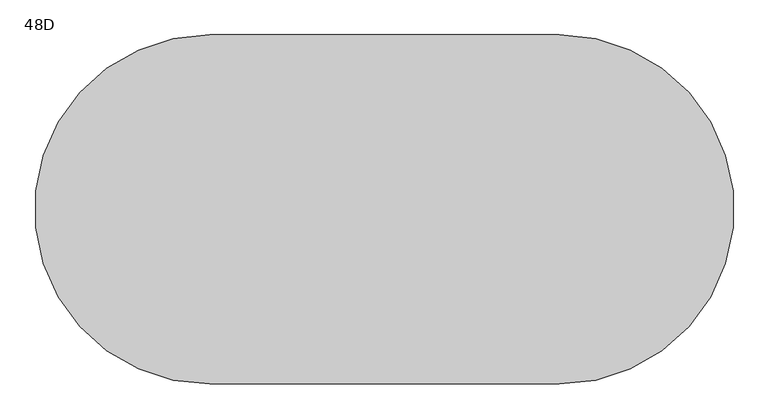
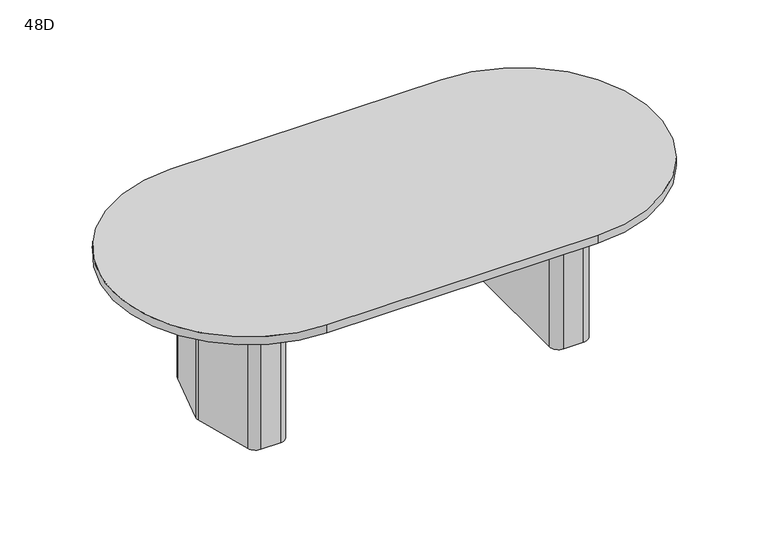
"""IFC4 building model written with IfcOpenShell, lengths in millimetres: furniture geometry, Coalesse_AM_Table_Conference_ETable2_Racetrack_96in_TwoBase : 48D."""

from ifc_helpers import new_model, si_unit, point, frame, frame_2d, origin, place, context, project, spatial, polyline, circle_curve, trimmed, segment, composite_curve, outline, extrude, source, transform, mapped, element, save
from ifc_brep_helpers import plane_surface, cylinder_surface, revolved_surface, advanced_brep


def furniture_48d_a0592bcc(model_context):
    return source(origin(), model_context, "Body", "SolidModel", [
        advanced_brep(
        [(760.624548, 274.2093613, 698.5), (720.7579246, 304.8, 698.5), (631.825, 304.8, 698.5), (590.55, 263.525, 698.5), (590.55, -263.525, 698.5), (631.825, -304.8, 698.5), (720.7579246, -304.8, 698.5), (760.624548, -274.2093613, 698.5), (831.2503901, -10.6333708, 698.5), (831.2503901, 10.6333708, 698.5), (628.65, -206.375, 698.5), (628.65, 206.375, 698.5), (654.05, 231.775, 698.5), (713.0608422, 231.775, 698.5), (737.595338, 212.9490792, 698.5), (776.2875, 68.54974, 698.5), (776.2875, -68.54974, 698.5), (737.595338, -212.9490792, 698.5), (713.0608422, -231.775, 698.5), (654.05, -231.775, 698.5), (760.624548, 274.2093613, 3.175), (831.2503901, 10.6333708, 3.175), (831.2503901, -10.6333708, 3.175), (760.624548, -274.2093613, 3.175), (720.7579246, -304.8, 3.175), (631.825, -304.8, 3.175), (590.55, -263.525, 3.175), (590.55, 263.525, 3.175), (631.825, 304.8, 3.175), (720.7579246, 304.8, 3.175), (749.8625859, 216.2361187, 3.175), (713.0608422, 244.475, 3.175), (654.05, 244.475, 3.175), (615.95, 206.375, 3.175), (615.95, -206.375, 3.175), (654.05, -244.475, 3.175), (713.0608422, -244.475, 3.175), (749.8625859, -216.2361187, 3.175), (788.9875, -70.2217466, 3.175), (788.9875, 70.2217466, 3.175), (654.05, -231.775, 3.175), (628.65, -206.375, 3.175), (713.0608422, -231.775, 3.175), (737.595338, -212.9490792, 3.175), (776.2875, -68.54974, 3.175), (776.2875, 68.54974, 3.175), (737.595338, 212.9490792, 3.175), (713.0608422, 231.775, 3.175), (654.05, 231.775, 3.175), (628.65, 206.375, 3.175), (749.8625859, 216.2361187, 0.0), (788.9875, 70.2217466, 0.0), (788.9875, -70.2217466, 0.0), (749.8625859, -216.2361187, 0.0), (713.0608422, -244.475, 0.0), (654.05, -244.475, 0.0), (615.95, -206.375, 0.0), (615.95, 206.375, 0.0), (654.05, 244.475, 0.0), (713.0608422, 244.475, 0.0)],
        [
            (0, 1, circle_curve(frame((720.7579246, 263.5270004, 698.5), z_axis=(0.0, 0.0, 1.0), x_axis=(-1.0, 0.0, 0.0)), 41.2729996)),
            (1, 2),
            (2, 3, circle_curve(frame((631.825, 263.525, 698.5), z_axis=(0.0, 0.0, 1.0), x_axis=(-1.0, 0.0, 0.0)), 41.275)),
            (3, 4),
            (4, 5, circle_curve(frame((631.825, -263.525, 698.5), z_axis=(0.0, 0.0, 1.0), x_axis=(-1.0, 0.0, 0.0)), 41.275)),
            (5, 6),
            (6, 7, circle_curve(frame((720.7579246, -263.5270004, 698.5), z_axis=(0.0, 0.0, 1.0), x_axis=(-1.0, 0.0, 0.0)), 41.2729996)),
            (7, 8),
            (8, 9, circle_curve(frame((791.5665979, 0.0, 698.5), z_axis=(0.0, 0.0, 1.0), x_axis=(-1.0, 0.0, 0.0)), 41.0837187)),
            (9, 0),
            (10, 11),
            (11, 12, circle_curve(frame((654.05, 206.375, 698.5), z_axis=(0.0, 0.0, -1.0), x_axis=(-1.0, 0.0, 0.0)), 25.4)),
            (12, 13),
            (13, 14, circle_curve(frame((713.0608422, 206.375, 698.5), z_axis=(0.0, 0.0, -1.0), x_axis=(-1.0, 0.0, 0.0)), 25.4)),
            (14, 15),
            (15, 16),
            (16, 17),
            (17, 18, circle_curve(frame((713.0608422, -206.375, 698.5), z_axis=(0.0, 0.0, -1.0), x_axis=(-1.0, 0.0, 0.0)), 25.4)),
            (18, 19),
            (19, 10, circle_curve(frame((654.05, -206.375, 698.5), z_axis=(0.0, 0.0, -1.0), x_axis=(-1.0, 0.0, 0.0)), 25.4)),
            (20, 21),
            (21, 22, circle_curve(frame((791.5665979, 0.0, 3.175), z_axis=(0.0, 0.0, -1.0), x_axis=(-1.0, 0.0, 0.0)), 41.0837187)),
            (22, 23),
            (23, 24, circle_curve(frame((720.7579246, -263.5270004, 3.175), z_axis=(0.0, 0.0, -1.0), x_axis=(-1.0, 0.0, 0.0)), 41.2729996)),
            (24, 25),
            (25, 26, circle_curve(frame((631.825, -263.525, 3.175), z_axis=(0.0, 0.0, -1.0), x_axis=(-1.0, 0.0, 0.0)), 41.275)),
            (26, 27),
            (27, 28, circle_curve(frame((631.825, 263.525, 3.175), z_axis=(0.0, 0.0, -1.0), x_axis=(-1.0, 0.0, 0.0)), 41.275)),
            (28, 29),
            (29, 20, circle_curve(frame((720.7579246, 263.5270004, 3.175), z_axis=(0.0, 0.0, -1.0), x_axis=(-1.0, 0.0, 0.0)), 41.2729996)),
            (30, 31, circle_curve(frame((713.0608422, 206.375, 3.175), z_axis=(0.0, 0.0, 1.0), x_axis=(-1.0, 0.0, 0.0)), 38.1)),
            (31, 32),
            (32, 33, circle_curve(frame((654.05, 206.375, 3.175), z_axis=(0.0, 0.0, 1.0), x_axis=(-1.0, 0.0, 0.0)), 38.1)),
            (33, 34),
            (34, 35, circle_curve(frame((654.05, -206.375, 3.175), z_axis=(0.0, 0.0, 1.0), x_axis=(-1.0, 0.0, 0.0)), 38.1)),
            (35, 36),
            (36, 37, circle_curve(frame((713.0608422, -206.375, 3.175), z_axis=(0.0, 0.0, 1.0), x_axis=(-1.0, 0.0, 0.0)), 38.1)),
            (37, 38),
            (38, 39),
            (39, 30),
            (9, 21),
            (20, 0),
            (8, 22),
            (7, 23),
            (6, 24),
            (5, 25),
            (4, 26),
            (3, 27),
            (2, 28),
            (1, 29),
            (19, 40),
            (40, 41, circle_curve(frame((654.05, -206.375, 3.175), z_axis=(0.0, 0.0, -1.0), x_axis=(-1.0, 0.0, 0.0)), 25.4)),
            (41, 10),
            (18, 42),
            (42, 40),
            (17, 43),
            (43, 42, circle_curve(frame((713.0608422, -206.375, 3.175), z_axis=(0.0, 0.0, -1.0), x_axis=(-1.0, 0.0, 0.0)), 25.4)),
            (16, 44),
            (44, 43),
            (15, 45),
            (45, 44),
            (14, 46),
            (46, 45),
            (13, 47),
            (47, 46, circle_curve(frame((713.0608422, 206.375, 3.175), z_axis=(0.0, 0.0, -1.0), x_axis=(-1.0, 0.0, 0.0)), 25.4)),
            (12, 48),
            (48, 47),
            (11, 49),
            (49, 48, circle_curve(frame((654.05, 206.375, 3.175), z_axis=(0.0, 0.0, -1.0), x_axis=(-1.0, 0.0, 0.0)), 25.4)),
            (41, 49),
            (50, 51),
            (51, 52),
            (52, 53),
            (53, 54, circle_curve(frame((713.0608422, -206.375, 0.0), z_axis=(0.0, 0.0, -1.0), x_axis=(-1.0, 0.0, 0.0)), 38.1)),
            (54, 55),
            (55, 56, circle_curve(frame((654.05, -206.375, 0.0), z_axis=(0.0, 0.0, -1.0), x_axis=(-1.0, 0.0, 0.0)), 38.1)),
            (56, 57),
            (57, 58, circle_curve(frame((654.05, 206.375, 0.0), z_axis=(0.0, 0.0, -1.0), x_axis=(-1.0, 0.0, 0.0)), 38.1)),
            (58, 59),
            (59, 50, circle_curve(frame((713.0608422, 206.375, 0.0), z_axis=(0.0, 0.0, -1.0), x_axis=(-1.0, 0.0, 0.0)), 38.1)),
            (50, 30),
            (39, 51),
            (38, 52),
            (37, 53),
            (36, 54),
            (35, 55),
            (34, 56),
            (33, 57),
            (32, 58),
            (31, 59),
        ],
        [
            plane_surface(frame((831.2374275, 10.6817473, 698.5), z_axis=(0.0, 0.0, 1.0000000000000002), x_axis=(0.25882201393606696, -0.9659250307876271, 0.0))),
            plane_surface(frame((831.2374275, 10.6817473, 3.175), z_axis=(0.0, 0.0, -1.0000000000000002), x_axis=(-0.25882201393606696, 0.9659250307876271, 0.0))),
            plane_surface(frame((760.624548, 274.2093613, 698.5), z_axis=(0.9659250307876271, 0.25882201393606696, 0.0), x_axis=(0.0, 0.0, -1.0))),
            cylinder_surface(frame((791.5665979, 0.0, 3.175), z_axis=(0.0, 0.0, 1.0), x_axis=(-1.0, 0.0, 0.0)), 41.0837187),
            plane_surface(frame((831.2503901, -10.6333708, 698.5), z_axis=(0.9659250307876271, -0.2588220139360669, 0.0), x_axis=(0.0, 0.0, -1.0))),
            cylinder_surface(frame((720.7579246, -263.5270004, 3.175), z_axis=(0.0, 0.0, 1.0), x_axis=(-1.0, 0.0, 0.0)), 41.2729996),
            plane_surface(frame((720.7579246, -304.8, 698.5), z_axis=(0.0, -1.0, 0.0), x_axis=(0.0, 0.0, -1.0))),
            cylinder_surface(frame((631.825, -263.525, 3.175), z_axis=(0.0, 0.0, 1.0), x_axis=(-1.0, 0.0, 0.0)), 41.275),
            plane_surface(frame((590.55, -263.525, 698.5), z_axis=(-1.0, 0.0, 0.0), x_axis=(0.0, 0.0, -1.0))),
            cylinder_surface(frame((631.825, 263.525, 3.175), z_axis=(0.0, 0.0, 1.0), x_axis=(-1.0, 0.0, 0.0)), 41.275),
            plane_surface(frame((631.825, 304.8, 698.5), z_axis=(0.0, 1.0, 0.0), x_axis=(0.0, 0.0, -1.0))),
            cylinder_surface(frame((720.7579246, 263.5270004, 3.175), z_axis=(0.0, 0.0, 1.0), x_axis=(-1.0, 0.0, 0.0)), 41.2729996),
            revolved_surface(polyline([(628.65, -206.375, 3.175), (628.65, -206.375, 698.5)]), (654.05, -206.375, 0.0), (0.0, 0.0, -1.0)),
            plane_surface(frame((654.05, -231.775, 698.5), z_axis=(0.0, 1.0, 0.0), x_axis=(0.0, 0.0, -1.0))),
            revolved_surface(polyline([(687.6608422, -206.375, 3.175), (687.6608422, -206.375, 698.5)]), (713.0608422, -206.375, 0.0), (0.0, 0.0, -1.0)),
            plane_surface(frame((737.595338, -212.9490792, 698.5), z_axis=(-0.9659250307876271, 0.2588220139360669, 0.0), x_axis=(0.0, 0.0, -1.0))),
            plane_surface(frame((776.2875, -68.54974, 698.5), z_axis=(-1.0, 0.0, 0.0), x_axis=(0.0, 0.0, -1.0))),
            plane_surface(frame((776.2875, 68.54974, 698.5), z_axis=(-0.9659250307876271, -0.25882201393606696, 0.0), x_axis=(0.0, 0.0, -1.0))),
            revolved_surface(polyline([(687.6608422, 206.375, 3.175), (687.6608422, 206.375, 698.5)]), (713.0608422, 206.375, 0.0), (0.0, 0.0, -1.0)),
            plane_surface(frame((713.0608422, 231.775, 698.5), z_axis=(0.0, -1.0, 0.0), x_axis=(0.0, 0.0, -1.0))),
            revolved_surface(polyline([(628.65, 206.375, 3.175), (628.65, 206.375, 698.5)]), (654.05, 206.375, 0.0), (0.0, 0.0, -1.0)),
            plane_surface(frame((628.65, 206.375, 698.5), z_axis=(1.0, 0.0, 0.0), x_axis=(0.0, 0.0, -1.0))),
            plane_surface(frame((788.5547479, 71.8367796, 3.175), z_axis=(0.0, 0.0, 1.0), x_axis=(0.25882201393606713, -0.965925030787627, 0.0))),
            plane_surface(frame((788.5547479, 71.8367796, 0.0), z_axis=(0.0, 0.0, -1.0), x_axis=(-0.25882201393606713, 0.965925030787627, 0.0))),
            plane_surface(frame((749.8625859, 216.2361187, 3.175), z_axis=(0.965925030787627, 0.25882201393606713, 0.0), x_axis=(0.0, 0.0, -1.0))),
            plane_surface(frame((788.9875, 70.2217466, 3.175), z_axis=(1.0, 0.0, 0.0), x_axis=(0.0, 0.0, -1.0))),
            plane_surface(frame((788.9875, -70.2217466, 3.175), z_axis=(0.9659250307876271, -0.2588220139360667, 0.0), x_axis=(0.0, 0.0, -1.0))),
            cylinder_surface(frame((713.0608422, -206.375, 0.0), z_axis=(0.0, 0.0, 1.0), x_axis=(-1.0, 0.0, 0.0)), 38.1),
            plane_surface(frame((713.0608422, -244.475, 3.175), z_axis=(0.0, -1.0, 0.0), x_axis=(0.0, 0.0, -1.0))),
            cylinder_surface(frame((654.05, -206.375, 0.0), z_axis=(0.0, 0.0, 1.0), x_axis=(-1.0, 0.0, 0.0)), 38.1),
            plane_surface(frame((615.95, -206.375, 3.175), z_axis=(-1.0, 0.0, 0.0), x_axis=(0.0, 0.0, -1.0))),
            cylinder_surface(frame((654.05, 206.375, 0.0), z_axis=(0.0, 0.0, 1.0), x_axis=(-1.0, 0.0, 0.0)), 38.1),
            plane_surface(frame((654.05, 244.475, 3.175), z_axis=(0.0, 1.0, 0.0), x_axis=(0.0, 0.0, -1.0))),
            cylinder_surface(frame((713.0608422, 206.375, 0.0), z_axis=(0.0, 0.0, 1.0), x_axis=(-1.0, 0.0, 0.0)), 38.1),
        ],
        [
            (0, [[1, 2, 3, 4, 5, 6, 7, 8, 9, 10], [11, 12, 13, 14, 15, 16, 17, 18, 19, 20]]),
            (1, [[21, 22, 23, 24, 25, 26, 27, 28, 29, 30], [31, 32, 33, 34, 35, 36, 37, 38, 39, 40]]),
            (2, [[41, -21, 42, -10]]),
            (3, [[43, -22, -41, -9]]),
            (4, [[44, -23, -43, -8]]),
            (5, [[45, -24, -44, -7]]),
            (6, [[46, -25, -45, -6]]),
            (7, [[47, -26, -46, -5]]),
            (8, [[48, -27, -47, -4]]),
            (9, [[49, -28, -48, -3]]),
            (10, [[50, -29, -49, -2]]),
            (11, [[-42, -30, -50, -1]]),
            (12, [[51, 52, 53, -20]]),
            (13, [[54, 55, -51, -19]]),
            (14, [[56, 57, -54, -18]]),
            (15, [[58, 59, -56, -17]]),
            (16, [[60, 61, -58, -16]]),
            (17, [[62, 63, -60, -15]]),
            (18, [[64, 65, -62, -14]]),
            (19, [[66, 67, -64, -13]]),
            (20, [[68, 69, -66, -12]]),
            (21, [[-53, 70, -68, -11]]),
            (22, [[-55, -57, -59, -61, -63, -65, -67, -69, -70, -52]]),
            (23, [[71, 72, 73, 74, 75, 76, 77, 78, 79, 80]]),
            (24, [[81, -40, 82, -71]]),
            (25, [[-82, -39, 83, -72]]),
            (26, [[-83, -38, 84, -73]]),
            (27, [[-84, -37, 85, -74]]),
            (28, [[-85, -36, 86, -75]]),
            (29, [[-86, -35, 87, -76]]),
            (30, [[-87, -34, 88, -77]]),
            (31, [[-88, -33, 89, -78]]),
            (32, [[-89, -32, 90, -79]]),
            (33, [[-90, -31, -81, -80]]),
        ],
    ),
        advanced_brep(
        [(-771.737048, 274.2093613, 698.5), (-842.3628901, 10.6333708, 698.5), (-842.3628901, -10.6333708, 698.5), (-771.737048, -274.2093613, 698.5), (-731.8704246, -304.8, 698.5), (-642.9375, -304.8, 698.5), (-601.6625, -263.525, 698.5), (-601.6625, 263.525, 698.5), (-642.9375, 304.8, 698.5), (-731.8704246, 304.8, 698.5), (-639.7625, -206.375, 698.5), (-665.1625, -231.775, 698.5), (-724.1733422, -231.775, 698.5), (-748.707838, -212.9490792, 698.5), (-787.4, -68.54974, 698.5), (-787.4, 68.54974, 698.5), (-748.707838, 212.9490792, 698.5), (-724.1733422, 231.775, 698.5), (-665.1625, 231.775, 698.5), (-639.7625, 206.375, 698.5), (-771.737048, 274.2093613, 3.175), (-731.8704246, 304.8, 3.175), (-642.9375, 304.8, 3.175), (-601.6625, 263.525, 3.175), (-601.6625, -263.525, 3.175), (-642.9375, -304.8, 3.175), (-731.8704246, -304.8, 3.175), (-771.737048, -274.2093613, 3.175), (-842.3628901, -10.6333708, 3.175), (-842.3628901, 10.6333708, 3.175), (-760.9750859, 216.2361187, 3.175), (-800.1, 70.2217466, 3.175), (-800.1, -70.2217466, 3.175), (-760.9750859, -216.2361187, 3.175), (-724.1733422, -244.475, 3.175), (-665.1625, -244.475, 3.175), (-627.0625, -206.375, 3.175), (-627.0625, 206.375, 3.175), (-665.1625, 244.475, 3.175), (-724.1733422, 244.475, 3.175), (-639.7625, -206.375, 3.175), (-665.1625, -231.775, 3.175), (-724.1733422, -231.775, 3.175), (-748.707838, -212.9490792, 3.175), (-787.4, -68.54974, 3.175), (-787.4, 68.54974, 3.175), (-748.707838, 212.9490792, 3.175), (-724.1733422, 231.775, 3.175), (-665.1625, 231.775, 3.175), (-639.7625, 206.375, 3.175), (-760.9750859, 216.2361187, 0.0), (-724.1733422, 244.475, 0.0), (-665.1625, 244.475, 0.0), (-627.0625, 206.375, 0.0), (-627.0625, -206.375, 0.0), (-665.1625, -244.475, 0.0), (-724.1733422, -244.475, 0.0), (-760.9750859, -216.2361187, 0.0), (-800.1, -70.2217466, 0.0), (-800.1, 70.2217466, 0.0)],
        [
            (0, 1),
            (1, 2, circle_curve(frame((-802.6790979, 0.0, 698.5), z_axis=(0.0, 0.0, 1.0), x_axis=(1.0, 0.0, 0.0)), 41.0837187)),
            (2, 3),
            (3, 4, circle_curve(frame((-731.8704246, -263.5270004, 698.5), z_axis=(0.0, 0.0, 1.0), x_axis=(1.0, 0.0, 0.0)), 41.2729996)),
            (4, 5),
            (5, 6, circle_curve(frame((-642.9375, -263.525, 698.5), z_axis=(0.0, 0.0, 1.0), x_axis=(1.0, 0.0, 0.0)), 41.275)),
            (6, 7),
            (7, 8, circle_curve(frame((-642.9375, 263.525, 698.5), z_axis=(0.0, 0.0, 1.0), x_axis=(1.0, 0.0, 0.0)), 41.275)),
            (8, 9),
            (9, 0, circle_curve(frame((-731.8704246, 263.5270004, 698.5), z_axis=(0.0, 0.0, 1.0), x_axis=(1.0, 0.0, 0.0)), 41.2729996)),
            (10, 11, circle_curve(frame((-665.1625, -206.375, 698.5), z_axis=(0.0, 0.0, -1.0), x_axis=(1.0, 0.0, 0.0)), 25.4)),
            (11, 12),
            (12, 13, circle_curve(frame((-724.1733422, -206.375, 698.5), z_axis=(0.0, 0.0, -1.0), x_axis=(1.0, 0.0, 0.0)), 25.4)),
            (13, 14),
            (14, 15),
            (15, 16),
            (16, 17, circle_curve(frame((-724.1733422, 206.375, 698.5), z_axis=(0.0, 0.0, -1.0), x_axis=(1.0, 0.0, 0.0)), 25.4)),
            (17, 18),
            (18, 19, circle_curve(frame((-665.1625, 206.375, 698.5), z_axis=(0.0, 0.0, -1.0), x_axis=(1.0, 0.0, 0.0)), 25.4)),
            (19, 10),
            (20, 21, circle_curve(frame((-731.8704246, 263.5270004, 3.175), z_axis=(0.0, 0.0, -1.0), x_axis=(1.0, 0.0, 0.0)), 41.2729996)),
            (21, 22),
            (22, 23, circle_curve(frame((-642.9375, 263.525, 3.175), z_axis=(0.0, 0.0, -1.0), x_axis=(1.0, 0.0, 0.0)), 41.275)),
            (23, 24),
            (24, 25, circle_curve(frame((-642.9375, -263.525, 3.175), z_axis=(0.0, 0.0, -1.0), x_axis=(1.0, 0.0, 0.0)), 41.275)),
            (25, 26),
            (26, 27, circle_curve(frame((-731.8704246, -263.5270004, 3.175), z_axis=(0.0, 0.0, -1.0), x_axis=(1.0, 0.0, 0.0)), 41.2729996)),
            (27, 28),
            (28, 29, circle_curve(frame((-802.6790979, 0.0, 3.175), z_axis=(0.0, 0.0, -1.0), x_axis=(1.0, 0.0, 0.0)), 41.0837187)),
            (29, 20),
            (30, 31),
            (31, 32),
            (32, 33),
            (33, 34, circle_curve(frame((-724.1733422, -206.375, 3.175), z_axis=(0.0, 0.0, 1.0), x_axis=(1.0, 0.0, 0.0)), 38.1)),
            (34, 35),
            (35, 36, circle_curve(frame((-665.1625, -206.375, 3.175), z_axis=(0.0, 0.0, 1.0), x_axis=(1.0, 0.0, 0.0)), 38.1)),
            (36, 37),
            (37, 38, circle_curve(frame((-665.1625, 206.375, 3.175), z_axis=(0.0, 0.0, 1.0), x_axis=(1.0, 0.0, 0.0)), 38.1)),
            (38, 39),
            (39, 30, circle_curve(frame((-724.1733422, 206.375, 3.175), z_axis=(0.0, 0.0, 1.0), x_axis=(1.0, 0.0, 0.0)), 38.1)),
            (0, 20),
            (29, 1),
            (28, 2),
            (27, 3),
            (26, 4),
            (25, 5),
            (24, 6),
            (23, 7),
            (22, 8),
            (21, 9),
            (10, 40),
            (40, 41, circle_curve(frame((-665.1625, -206.375, 3.175), z_axis=(0.0, 0.0, -1.0), x_axis=(1.0, 0.0, 0.0)), 25.4)),
            (41, 11),
            (41, 42),
            (42, 12),
            (42, 43, circle_curve(frame((-724.1733422, -206.375, 3.175), z_axis=(0.0, 0.0, -1.0), x_axis=(1.0, 0.0, 0.0)), 25.4)),
            (43, 13),
            (43, 44),
            (44, 14),
            (44, 45),
            (45, 15),
            (45, 46),
            (46, 16),
            (46, 47, circle_curve(frame((-724.1733422, 206.375, 3.175), z_axis=(0.0, 0.0, -1.0), x_axis=(1.0, 0.0, 0.0)), 25.4)),
            (47, 17),
            (47, 48),
            (48, 18),
            (48, 49, circle_curve(frame((-665.1625, 206.375, 3.175), z_axis=(0.0, 0.0, -1.0), x_axis=(1.0, 0.0, 0.0)), 25.4)),
            (49, 19),
            (49, 40),
            (50, 51, circle_curve(frame((-724.1733422, 206.375, 0.0), z_axis=(0.0, 0.0, -1.0), x_axis=(1.0, 0.0, 0.0)), 38.1)),
            (51, 52),
            (52, 53, circle_curve(frame((-665.1625, 206.375, 0.0), z_axis=(0.0, 0.0, -1.0), x_axis=(1.0, 0.0, 0.0)), 38.1)),
            (53, 54),
            (54, 55, circle_curve(frame((-665.1625, -206.375, 0.0), z_axis=(0.0, 0.0, -1.0), x_axis=(1.0, 0.0, 0.0)), 38.1)),
            (55, 56),
            (56, 57, circle_curve(frame((-724.1733422, -206.375, 0.0), z_axis=(0.0, 0.0, -1.0), x_axis=(1.0, 0.0, 0.0)), 38.1)),
            (57, 58),
            (58, 59),
            (59, 50),
            (59, 31),
            (30, 50),
            (58, 32),
            (57, 33),
            (56, 34),
            (55, 35),
            (54, 36),
            (53, 37),
            (52, 38),
            (51, 39),
        ],
        [
            plane_surface(frame((-842.3499275, 10.6817473, 698.5), z_axis=(0.0, 0.0, 1.0000000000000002), x_axis=(-0.25882201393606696, -0.9659250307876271, 0.0))),
            plane_surface(frame((-842.3499275, 10.6817473, 3.175), z_axis=(0.0, 0.0, -1.0000000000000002), x_axis=(0.25882201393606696, 0.9659250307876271, 0.0))),
            plane_surface(frame((-771.737048, 274.2093613, 698.5), z_axis=(-0.9659250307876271, 0.25882201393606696, 0.0), x_axis=(0.0, 0.0, -1.0))),
            cylinder_surface(frame((-802.6790979, 0.0, 3.175), z_axis=(0.0, 0.0, 1.0), x_axis=(1.0, 0.0, 0.0)), 41.0837187),
            plane_surface(frame((-842.3628901, -10.6333708, 698.5), z_axis=(-0.9659250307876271, -0.2588220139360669, 0.0), x_axis=(0.0, 0.0, -1.0))),
            cylinder_surface(frame((-731.8704246, -263.5270004, 3.175), z_axis=(0.0, 0.0, 1.0), x_axis=(1.0, 0.0, 0.0)), 41.2729996),
            plane_surface(frame((-731.8704246, -304.8, 698.5), z_axis=(0.0, -1.0, 0.0), x_axis=(0.0, 0.0, -1.0))),
            cylinder_surface(frame((-642.9375, -263.525, 3.175), z_axis=(0.0, 0.0, 1.0), x_axis=(1.0, 0.0, 0.0)), 41.275),
            plane_surface(frame((-601.6625, -263.525, 698.5), z_axis=(1.0, 0.0, 0.0), x_axis=(0.0, 0.0, -1.0))),
            cylinder_surface(frame((-642.9375, 263.525, 3.175), z_axis=(0.0, 0.0, 1.0), x_axis=(1.0, 0.0, 0.0)), 41.275),
            plane_surface(frame((-642.9375, 304.8, 698.5), z_axis=(0.0, 1.0, 0.0), x_axis=(0.0, 0.0, -1.0))),
            cylinder_surface(frame((-731.8704246, 263.5270004, 3.175), z_axis=(0.0, 0.0, 1.0), x_axis=(1.0, 0.0, 0.0)), 41.2729996),
            revolved_surface(polyline([(-639.7625, -206.375, 3.175), (-639.7625, -206.375, 698.5)]), (-665.1625, -206.375, 0.0), (0.0, 0.0, -1.0)),
            plane_surface(frame((-665.1625, -231.775, 698.5), z_axis=(0.0, 1.0, 0.0), x_axis=(0.0, 0.0, -1.0))),
            revolved_surface(polyline([(-698.7733422, -206.375, 3.175), (-698.7733422, -206.375, 698.5)]), (-724.1733422, -206.375, 0.0), (0.0, 0.0, -1.0)),
            plane_surface(frame((-748.707838, -212.9490792, 698.5), z_axis=(0.9659250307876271, 0.2588220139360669, 0.0), x_axis=(0.0, 0.0, -1.0))),
            plane_surface(frame((-787.4, -68.54974, 698.5), z_axis=(1.0, 0.0, 0.0), x_axis=(0.0, 0.0, -1.0))),
            plane_surface(frame((-787.4, 68.54974, 698.5), z_axis=(0.9659250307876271, -0.25882201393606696, 0.0), x_axis=(0.0, 0.0, -1.0))),
            revolved_surface(polyline([(-698.7733422, 206.375, 3.175), (-698.7733422, 206.375, 698.5)]), (-724.1733422, 206.375, 0.0), (0.0, 0.0, -1.0)),
            plane_surface(frame((-724.1733422, 231.775, 698.5), z_axis=(0.0, -1.0, 0.0), x_axis=(0.0, 0.0, -1.0))),
            revolved_surface(polyline([(-639.7625, 206.375, 3.175), (-639.7625, 206.375, 698.5)]), (-665.1625, 206.375, 0.0), (0.0, 0.0, -1.0)),
            plane_surface(frame((-639.7625, 206.375, 698.5), z_axis=(-1.0, 0.0, 0.0), x_axis=(0.0, 0.0, -1.0))),
            plane_surface(frame((-799.6672479, 71.8367796, 3.175), z_axis=(0.0, 0.0, 1.0), x_axis=(-0.25882201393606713, -0.965925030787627, 0.0))),
            plane_surface(frame((-799.6672479, 71.8367796, 0.0), z_axis=(0.0, 0.0, -1.0), x_axis=(0.25882201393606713, 0.965925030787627, 0.0))),
            plane_surface(frame((-760.9750859, 216.2361187, 3.175), z_axis=(-0.965925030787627, 0.25882201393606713, 0.0), x_axis=(0.0, 0.0, -1.0))),
            plane_surface(frame((-800.1, 70.2217466, 3.175), z_axis=(-1.0, 0.0, 0.0), x_axis=(0.0, 0.0, -1.0))),
            plane_surface(frame((-800.1, -70.2217466, 3.175), z_axis=(-0.9659250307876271, -0.2588220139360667, 0.0), x_axis=(0.0, 0.0, -1.0))),
            cylinder_surface(frame((-724.1733422, -206.375, 0.0), z_axis=(0.0, 0.0, 1.0), x_axis=(1.0, 0.0, 0.0)), 38.1),
            plane_surface(frame((-724.1733422, -244.475, 3.175), z_axis=(0.0, -1.0, 0.0), x_axis=(0.0, 0.0, -1.0))),
            cylinder_surface(frame((-665.1625, -206.375, 0.0), z_axis=(0.0, 0.0, 1.0), x_axis=(1.0, 0.0, 0.0)), 38.1),
            plane_surface(frame((-627.0625, -206.375, 3.175), z_axis=(1.0, 0.0, 0.0), x_axis=(0.0, 0.0, -1.0))),
            cylinder_surface(frame((-665.1625, 206.375, 0.0), z_axis=(0.0, 0.0, 1.0), x_axis=(1.0, 0.0, 0.0)), 38.1),
            plane_surface(frame((-665.1625, 244.475, 3.175), z_axis=(0.0, 1.0, 0.0), x_axis=(0.0, 0.0, -1.0))),
            cylinder_surface(frame((-724.1733422, 206.375, 0.0), z_axis=(0.0, 0.0, 1.0), x_axis=(1.0, 0.0, 0.0)), 38.1),
        ],
        [
            (0, [[1, 2, 3, 4, 5, 6, 7, 8, 9, 10], [11, 12, 13, 14, 15, 16, 17, 18, 19, 20]]),
            (1, [[21, 22, 23, 24, 25, 26, 27, 28, 29, 30], [31, 32, 33, 34, 35, 36, 37, 38, 39, 40]]),
            (2, [[-1, 41, -30, 42]]),
            (3, [[-2, -42, -29, 43]]),
            (4, [[-3, -43, -28, 44]]),
            (5, [[-4, -44, -27, 45]]),
            (6, [[-5, -45, -26, 46]]),
            (7, [[-6, -46, -25, 47]]),
            (8, [[-7, -47, -24, 48]]),
            (9, [[-8, -48, -23, 49]]),
            (10, [[-9, -49, -22, 50]]),
            (11, [[-10, -50, -21, -41]]),
            (12, [[-11, 51, 52, 53]]),
            (13, [[-12, -53, 54, 55]]),
            (14, [[-13, -55, 56, 57]]),
            (15, [[-14, -57, 58, 59]]),
            (16, [[-15, -59, 60, 61]]),
            (17, [[-16, -61, 62, 63]]),
            (18, [[-17, -63, 64, 65]]),
            (19, [[-18, -65, 66, 67]]),
            (20, [[-19, -67, 68, 69]]),
            (21, [[-20, -69, 70, -51]]),
            (22, [[-52, -70, -68, -66, -64, -62, -60, -58, -56, -54]]),
            (23, [[71, 72, 73, 74, 75, 76, 77, 78, 79, 80]]),
            (24, [[-80, 81, -31, 82]]),
            (25, [[-79, 83, -32, -81]]),
            (26, [[-78, 84, -33, -83]]),
            (27, [[-77, 85, -34, -84]]),
            (28, [[-76, 86, -35, -85]]),
            (29, [[-75, 87, -36, -86]]),
            (30, [[-74, 88, -37, -87]]),
            (31, [[-73, 89, -38, -88]]),
            (32, [[-72, 90, -39, -89]]),
            (33, [[-71, -82, -40, -90]]),
        ],
    ),
        extrude(outline(polyline([(96.8375, 698.5), (103.1875, 698.5), (103.1875, 476.25), (-103.1875, 476.25), (-103.1875, 698.5), (-96.8375, 698.5), (-96.8375, 482.6), (96.8375, 482.6), (96.8375, 698.5)])), frame((-601.6625, 0.0, 0.0), z_axis=(1.0, 0.0, 0.0), x_axis=(0.0, 1.0, 0.0)), (0.0, 0.0, 1.0), 1192.2125),
        extrude(outline(composite_curve([segment(trimmed(circle_curve(frame_2d((-609.6, 0.0)), 609.6), [point((-609.6, -609.6))], [point((-609.6, 609.6))], False, "CARTESIAN"), True, "CONTINUOUS"), segment(polyline([(-609.6, 609.6), (609.6, 609.6)]), True, "CONTINUOUS"), segment(trimmed(circle_curve(frame_2d((609.6, 0.0)), 609.6), [point((609.6, 609.6))], [point((609.6, -609.6))], False, "CARTESIAN"), True, "CONTINUOUS"), segment(polyline([(609.6, -609.6), (-609.6, -609.6)]), True, "CONTINUOUS")], self_intersect=False)), frame((0.0, 0.0, 698.5), z_axis=(0.0, 0.0, 1.0), x_axis=(1.0, 0.0, 0.0)), (0.0, 0.0, 1.0), 38.1),
    ])


if __name__ == "__main__":
    model = new_model("IFC4")
    model_context = context("Model", 3, world=origin())
    ifc_project = project(units=[si_unit("LENGTHUNIT", "METRE", prefix="MILLI")], contexts=[model_context])
    site = spatial("IfcSite", under=ifc_project)
    building = spatial("IfcBuilding", under=site)
    placement = place(None, origin())
    furniture_48d_shape = furniture_48d_a0592bcc(model_context)
    element("IfcFurniture", 1, ObjectType="Coalesse_AM_Table_Conference_ETable2_Racetrack_96in_TwoBase : 48D", at=placement, inside=building, context=model_context, shape_type="MappedRepresentation", body=[
        mapped(furniture_48d_shape, transform((0.0, 0.0, 0.0), x_axis=(1.0, 0.0, 0.0), y_axis=(0.0, 1.0, 0.0), z_axis=(0.0, 0.0, 1.0))),
    ])
    save(model, "model.ifc")
